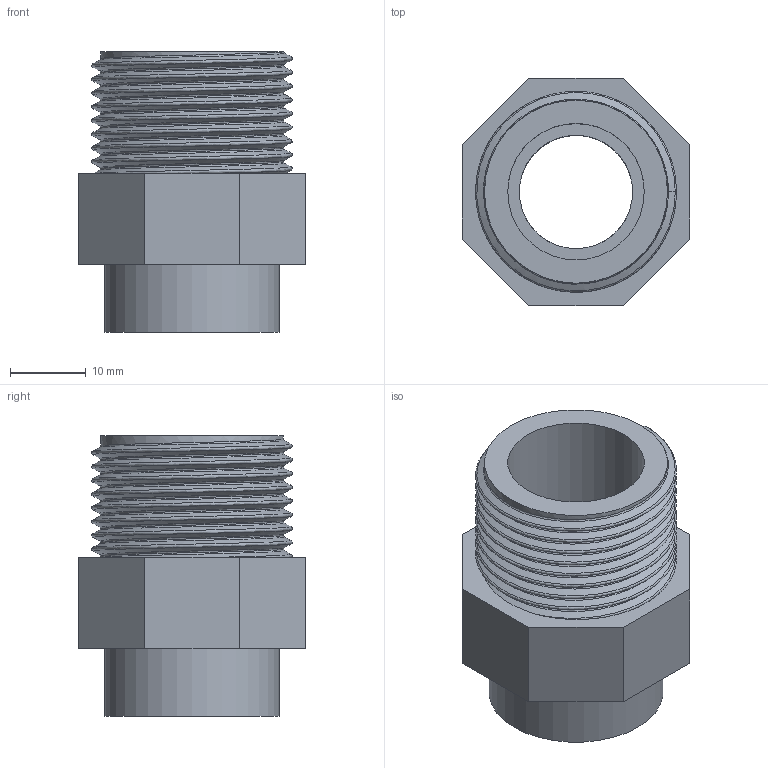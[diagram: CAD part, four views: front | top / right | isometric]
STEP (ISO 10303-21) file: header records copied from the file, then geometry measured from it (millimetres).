
FILE_DESCRIPTION(/* description */ ('PVC riduzione filettata BSP maschio femmina'),/* implementation_level */ '2;1');
FILE_NAME(/* name */ 'C:\Users\POLYPIPE\Desktop\DATASET INVENTOR\LIBRERIA EFFAST\RACCORDI 3DxWEB\RER\3D_RERRIE\3D_RERRIE025A.stp',/* time_stamp */ '2018-01-19T17:00:42+01:00',/* author */ ('POLYPIPE'),/* organization */ ('Polypipe Italia'),/* preprocessor_version */ 'ST-DEVELOPER v16.1',/* originating_system */ 'Autodesk Inventor 2016',/* authorisation */ '');
FILE_SCHEMA (('CONFIG_CONTROL_DESIGN'));
Length unit declared in the file: millimetre
Products named in the file (1): 3D_RERRIE025A
Bounding box: 30 x 30 x 37 mm (x, y, z)
Volume: 12464.9 mm3; surface area: 7434.7 mm2
Topology: 1 solids, 1 shells, 29 faces, 68 edges, 44 vertices
Faces by surface type: plane 15, bspline 10, cylinder 4
Full cylindrical faces by diameter (mm): 14.95 x1, 18 x1, 23 x1, 24.117 x1
Entity records: 7621 total; most frequent: CARTESIAN_POINT 7006, ORIENTED_EDGE 128, DIRECTION 94, EDGE_CURVE 64, VERTEX_POINT 43, EDGE_LOOP 37, AXIS2_PLACEMENT_3D 32, LINE 30
